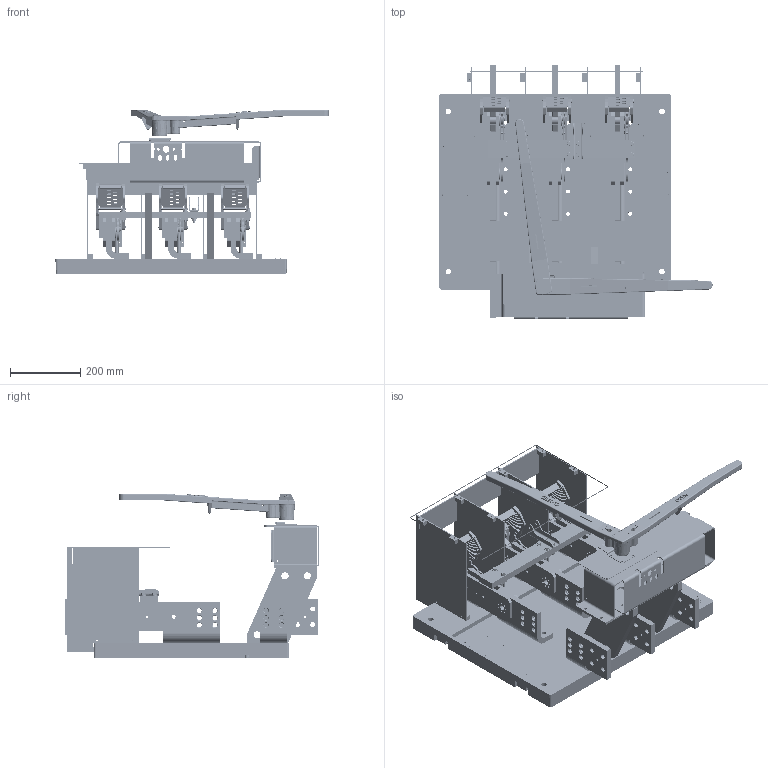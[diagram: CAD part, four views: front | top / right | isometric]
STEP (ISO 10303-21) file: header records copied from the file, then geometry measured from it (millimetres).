
FILE_DESCRIPTION(/* description */ (''),/* implementation_level */ '2;1');
FILE_NAME(/* name */ 'H:\switches\3d-templates\catalog-switches-iges-files\CATALOG-VL3611.stp',/* time_stamp */ '2022-03-23T15:05:45-05:00',/* author */ ('MKingston'),/* organization */ (''),/* preprocessor_version */ 'ST-DEVELOPER v18.1',/* originating_system */ 'Autodesk Inventor 2022',/* authorisation */ '');
FILE_SCHEMA (('AUTOMOTIVE_DESIGN { 1 0 10303 214 3 1 1 }'));
Products named in the file (47): CATALOG-VL3611; 277; 670-D; 670-c; 670-E; CATALOG-2500amp-blade-assy; 67-fc3; 69-gc3; 670-AR; 670-AL; 70-M; 67-H; 67-j; ANSI/ASME B18.7 - T 0.252 x 17/32; ANSI/ASME B18.7 - T 0.188 x 17/32; 235-b; 230-a; CATALOG-58-qd-arc-chute-assy; 50-ql; 50-qr; 363-a; 363-b; 58-QG; ANSI B18.6.3 - No. 8 - 32 - 5/8; ANSI B18.6.3 - No. 8 - 32 - 1/2; ANSI B18.6.3 - No. 8 - 32 - 3; 255-z; 246-a; 820-bw1; 820-fw3; 221-RP,R3; 255-bha; 255-c; 178-c; 178-b; 672-ha; 661-A; Bolted Connection; ANSI/ASME B18.2.1 - 1/4-20 UNC - 1.25, HBI; Bolted Connection_1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
Assembly tree (108 placements, depth 3):
  CATALOG-VL3611
    277
    670-D  x3
    670-c  x3
    670-E  x3
    CATALOG-2500amp-blade-assy  x3
      67-fc3
      69-gc3
      67-j
      670-AR
      670-AL
      70-M
      67-H
      ANSI/ASME B18.7 - T 0.252 x 17/32
      ANSI/ASME B18.7 - T 0.188 x 17/32
    235-b
    230-a
    CATALOG-58-qd-arc-chute-assy  x3
      50-ql
      50-qr
      363-a
      363-b
      58-QG
      ANSI B18.6.3 - No. 8 - 32 - 5/8
      ANSI B18.6.3 - No. 8 - 32 - 1/2
      ANSI B18.6.3 - No. 8 - 32 - 3
    255-bha  x4
    255-z
    246-a  x2
    820-bw1
    820-fw3
    221-RP,R3
    255-c
    178-c  x8
    178-b  x8
    672-ha
    661-A  x3
    Bolted Connection
      ANSI B18.22.1 - 1/4 - narrow - Type A  x6
      ASME B18.21.1 - 1/4. Carbon Steel, ITLWTB(1)  x6
      ANSI/ASME B18.2.1 - 1/4-20 UNC - 1.25, HBI  x6
    Bolted Connection_1
      ANSI B18.22.1 - 1/4 - narrow - Type A  x4
      ASME B18.21.1 - 1/4. Carbon Steel, ITLWTB(1)  x4
      ANSI/ASME B18.2.1 - 1/4-20 UNC - 1.5, HBI  x2
      ANSI B18.2.2 - 1/4 - 20, HNI  x2
    223-d-transparent
    223-d-transparent-red
    223-FE
Bounding box: 779.41 x 726.77 x 469.37 mm (x, y, z)
Volume: 16640470.3 mm3; surface area: 3959779.1 mm2
Topology: 155 solids, 156 shells, 5704 faces, 14525 edges, 9427 vertices
Faces by surface type: plane 2750, cylinder 1800, cone 813, torus 175, bspline 139, sphere 27
Full cylindrical faces by diameter (mm): 1.702 x8, 3.175 x4, 3.302 x26, 3.454 x4, 3.683 x8, 3.962 x4, 4.166 x15, 4.496 x24, 4.762 x46, 4.775 x11, 4.801 x8, 4.902 x14, 4.915 x24, 4.978 x11, 5.556 x3, 5.791 x6, 6.35 x12, 6.401 x9, 6.528 x50, 6.604 x8, 7.137 x10, 7.144 x18, 7.798 x2, 7.938 x6, 8.077 x3, 8.179 x15, 8.331 x2, 8.731 x2, 9.601 x2, 9.804 x2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
Entity records: 95452 total; most frequent: CARTESIAN_POINT 24268, DIRECTION 14620, ORIENTED_EDGE 14230, EDGE_CURVE 7123, AXIS2_PLACEMENT_3D 5348, VERTEX_POINT 4642, LINE 3924, VECTOR 3924
